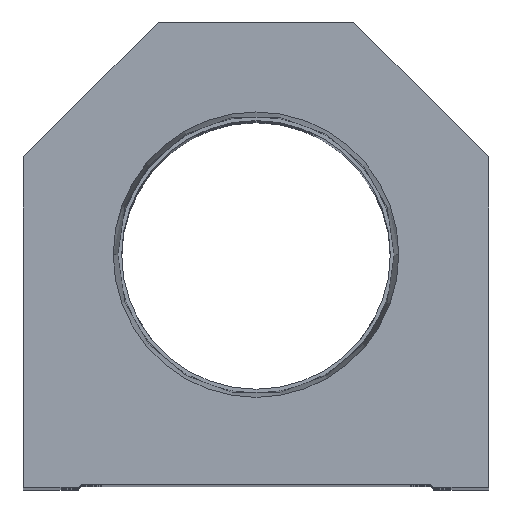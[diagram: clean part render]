
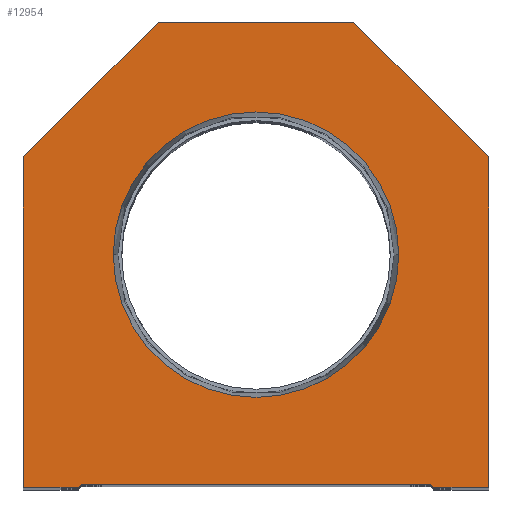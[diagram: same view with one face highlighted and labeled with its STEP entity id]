
A CAD part, top view. The second image highlights one B-rep face of the part: STEP entity #12954.
In plain terms, the highlighted planar face has unit normal (0, 0, 1).
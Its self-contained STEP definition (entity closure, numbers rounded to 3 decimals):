
#187 = CARTESIAN_POINT ( 'NONE',  ( -14.55, 14.55, 0. ) ) ;
#977 = DIRECTION ( 'NONE',  ( 0., 0., 1. ) ) ;
#1174 = DIRECTION ( 'NONE',  ( 1., 0., 0. ) ) ;
#1441 = LINE ( 'NONE', #10465, #11895 ) ;
#1624 = AXIS2_PLACEMENT_3D ( 'NONE', #4054, #977, #1174 ) ;
#1717 = VERTEX_POINT ( 'NONE', #1802 ) ;
#1802 = CARTESIAN_POINT ( 'NONE',  ( 23.374, 38.1, 0. ) ) ;
#1969 = EDGE_CURVE ( 'NONE', #14207, #18583, #3466, .T. ) ;
#2022 = CARTESIAN_POINT ( 'NONE',  ( -16., 76.2, 0. ) ) ;
#2103 = ORIENTED_EDGE ( 'NONE', *, *, #18597, .T. ) ;
#2162 = LINE ( 'NONE', #8175, #12793 ) ;
#2661 = FACE_BOUND ( 'NONE', #2801, .T. ) ;
#2801 = EDGE_LOOP ( 'NONE', ( #17170, #12840 ) ) ;
#2854 = LINE ( 'NONE', #17930, #18167 ) ;
#2951 = DIRECTION ( 'NONE',  ( 0., 0., 1. ) ) ;
#2968 = DIRECTION ( 'NONE',  ( 0., 0., 1. ) ) ;
#3143 = DIRECTION ( 'NONE',  ( 0.707, 0.707, 0. ) ) ;
#3260 = LINE ( 'NONE', #9390, #4529 ) ;
#3417 = EDGE_LOOP ( 'NONE', ( #14527, #16481, #5007, #11976, #17538, #15371, #18509, #2103, #10966, #13576 ) ) ;
#3466 = LINE ( 'NONE', #4981, #4777 ) ;
#3545 = DIRECTION ( 'NONE',  ( 1., 0., 0. ) ) ;
#3602 = LINE ( 'NONE', #15830, #4764 ) ;
#3787 = VERTEX_POINT ( 'NONE', #7501 ) ;
#4019 = VERTEX_POINT ( 'NONE', #18458 ) ;
#4054 = CARTESIAN_POINT ( 'NONE',  ( 0., 0., 0. ) ) ;
#4134 = DIRECTION ( 'NONE',  ( 0., -1., 0. ) ) ;
#4358 = EDGE_CURVE ( 'NONE', #4019, #14512, #3260, .T. ) ;
#4468 = DIRECTION ( 'NONE',  ( 0.707, -0.707, 0. ) ) ;
#4491 = VECTOR ( 'NONE', #3545, 1000. ) ;
#4529 = VECTOR ( 'NONE', #4468, 1000. ) ;
#4580 = CARTESIAN_POINT ( 'NONE',  ( -29.1, 0., 0. ) ) ;
#4764 = VECTOR ( 'NONE', #11315, 1000. ) ;
#4777 = VECTOR ( 'NONE', #4778, 1000. ) ;
#4778 = DIRECTION ( 'NONE',  ( -0.707, -0.707, 0. ) ) ;
#4981 = CARTESIAN_POINT ( 'NONE',  ( -38.1, 54.1, 0. ) ) ;
#5007 = ORIENTED_EDGE ( 'NONE', *, *, #14991, .T. ) ;
#5254 = CARTESIAN_POINT ( 'NONE',  ( -38.1, 54.1, 0. ) ) ;
#5872 = CARTESIAN_POINT ( 'NONE',  ( 0., 38.1, 0. ) ) ;
#5970 = AXIS2_PLACEMENT_3D ( 'NONE', #5872, #2951, #7263 ) ;
#6247 = VERTEX_POINT ( 'NONE', #15729 ) ;
#6448 = DIRECTION ( 'NONE',  ( 0., 1., 0. ) ) ;
#6753 = VERTEX_POINT ( 'NONE', #9763 ) ;
#6958 = CARTESIAN_POINT ( 'NONE',  ( 29.1, 0., 0. ) ) ;
#7263 = DIRECTION ( 'NONE',  ( 1., 0., 0. ) ) ;
#7501 = CARTESIAN_POINT ( 'NONE',  ( -38.1, 0., 0. ) ) ;
#8175 = CARTESIAN_POINT ( 'NONE',  ( 16., 76.2, 0. ) ) ;
#8386 = EDGE_CURVE ( 'NONE', #3787, #12708, #16246, .T. ) ;
#8583 = FACE_OUTER_BOUND ( 'NONE', #3417, .T. ) ;
#9051 = EDGE_CURVE ( 'NONE', #18583, #3787, #1441, .T. ) ;
#9390 = CARTESIAN_POINT ( 'NONE',  ( 14.55, 14.55, 0. ) ) ;
#9504 = CIRCLE ( 'NONE', #5970, 23.374 ) ;
#9599 = VERTEX_POINT ( 'NONE', #14390 ) ;
#9763 = CARTESIAN_POINT ( 'NONE',  ( -23.374, 38.1, 0. ) ) ;
#9977 = LINE ( 'NONE', #11457, #14312 ) ;
#10465 = CARTESIAN_POINT ( 'NONE',  ( -38.1, 0., 0. ) ) ;
#10966 = ORIENTED_EDGE ( 'NONE', *, *, #1969, .T. ) ;
#11315 = DIRECTION ( 'NONE',  ( 1., 0., 0. ) ) ;
#11457 = CARTESIAN_POINT ( 'NONE',  ( 38.1, 54.1, 0. ) ) ;
#11895 = VECTOR ( 'NONE', #4134, 1000. ) ;
#11976 = ORIENTED_EDGE ( 'NONE', *, *, #4358, .T. ) ;
#12297 = LINE ( 'NONE', #187, #13714 ) ;
#12391 = AXIS2_PLACEMENT_3D ( 'NONE', #13696, #2968, #13526 ) ;
#12414 = VECTOR ( 'NONE', #6448, 1000. ) ;
#12657 = LINE ( 'NONE', #14166, #12414 ) ;
#12708 = VERTEX_POINT ( 'NONE', #4580 ) ;
#12758 = CARTESIAN_POINT ( 'NONE',  ( -28.6, 0.5, 0. ) ) ;
#12793 = VECTOR ( 'NONE', #15607, 1000. ) ;
#12840 = ORIENTED_EDGE ( 'NONE', *, *, #14710, .F. ) ;
#12954 = ADVANCED_FACE ( 'NONE', ( #2661, #8583 ), #14695, .T. ) ;
#13320 = EDGE_CURVE ( 'NONE', #6247, #16581, #12657, .T. ) ;
#13526 = DIRECTION ( 'NONE',  ( 1., 0., 0. ) ) ;
#13576 = ORIENTED_EDGE ( 'NONE', *, *, #9051, .T. ) ;
#13696 = CARTESIAN_POINT ( 'NONE',  ( 0., 38.1, 0. ) ) ;
#13714 = VECTOR ( 'NONE', #3143, 1000. ) ;
#14166 = CARTESIAN_POINT ( 'NONE',  ( 38.1, 0., 0. ) ) ;
#14207 = VERTEX_POINT ( 'NONE', #2022 ) ;
#14312 = VECTOR ( 'NONE', #14678, 1000. ) ;
#14390 = CARTESIAN_POINT ( 'NONE',  ( 16., 76.2, 0. ) ) ;
#14512 = VERTEX_POINT ( 'NONE', #6958 ) ;
#14527 = ORIENTED_EDGE ( 'NONE', *, *, #8386, .T. ) ;
#14678 = DIRECTION ( 'NONE',  ( -0.707, 0.707, 0. ) ) ;
#14695 = PLANE ( 'NONE',  #1624 ) ;
#14710 = EDGE_CURVE ( 'NONE', #6753, #1717, #16535, .T. ) ;
#14940 = EDGE_CURVE ( 'NONE', #1717, #6753, #9504, .T. ) ;
#14991 = EDGE_CURVE ( 'NONE', #15436, #4019, #2854, .T. ) ;
#15174 = EDGE_CURVE ( 'NONE', #16581, #9599, #9977, .T. ) ;
#15371 = ORIENTED_EDGE ( 'NONE', *, *, #13320, .T. ) ;
#15436 = VERTEX_POINT ( 'NONE', #12758 ) ;
#15607 = DIRECTION ( 'NONE',  ( -1., 0., 0. ) ) ;
#15729 = CARTESIAN_POINT ( 'NONE',  ( 38.1, 0., 0. ) ) ;
#15830 = CARTESIAN_POINT ( 'NONE',  ( 28.6, 0., 0. ) ) ;
#16246 = LINE ( 'NONE', #17295, #4491 ) ;
#16419 = DIRECTION ( 'NONE',  ( 1., 0., 0. ) ) ;
#16481 = ORIENTED_EDGE ( 'NONE', *, *, #19319, .T. ) ;
#16535 = CIRCLE ( 'NONE', #12391, 23.374 ) ;
#16581 = VERTEX_POINT ( 'NONE', #18162 ) ;
#17170 = ORIENTED_EDGE ( 'NONE', *, *, #14940, .F. ) ;
#17295 = CARTESIAN_POINT ( 'NONE',  ( -28.6, 0., 0. ) ) ;
#17538 = ORIENTED_EDGE ( 'NONE', *, *, #19473, .T. ) ;
#17930 = CARTESIAN_POINT ( 'NONE',  ( -28.6, 0.5, 0. ) ) ;
#18162 = CARTESIAN_POINT ( 'NONE',  ( 38.1, 54.1, 0. ) ) ;
#18167 = VECTOR ( 'NONE', #16419, 1000. ) ;
#18458 = CARTESIAN_POINT ( 'NONE',  ( 28.6, 0.5, 0. ) ) ;
#18509 = ORIENTED_EDGE ( 'NONE', *, *, #15174, .T. ) ;
#18583 = VERTEX_POINT ( 'NONE', #5254 ) ;
#18597 = EDGE_CURVE ( 'NONE', #9599, #14207, #2162, .T. ) ;
#19319 = EDGE_CURVE ( 'NONE', #12708, #15436, #12297, .T. ) ;
#19473 = EDGE_CURVE ( 'NONE', #14512, #6247, #3602, .T. ) ;
